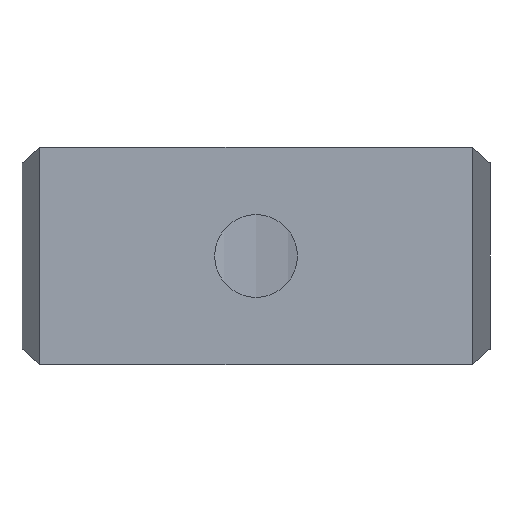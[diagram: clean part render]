
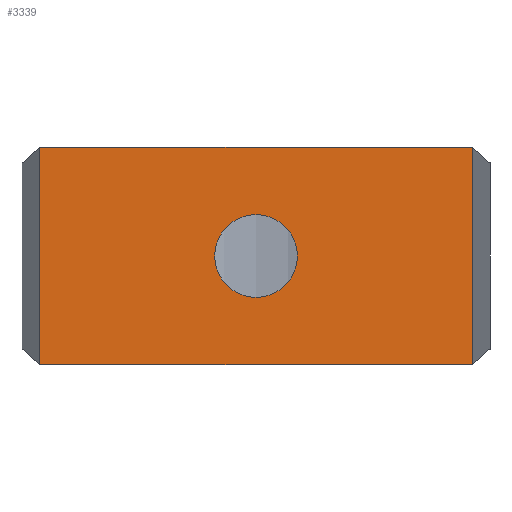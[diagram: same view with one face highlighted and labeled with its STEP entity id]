
A CAD part, front view. The second image highlights one B-rep face of the part: STEP entity #3339.
In plain terms, the highlighted planar face has unit normal (0, -1, 0).
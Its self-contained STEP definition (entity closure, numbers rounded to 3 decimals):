
#25 = CARTESIAN_POINT ( 'NONE',  ( 0., 0., -4. ) ) ;
#218 = DIRECTION ( 'NONE',  ( 0., 0., 1. ) ) ;
#337 = DIRECTION ( 'NONE',  ( 0., 0., 1. ) ) ;
#356 = CARTESIAN_POINT ( 'NONE',  ( 0., 0., 0. ) ) ;
#372 = LINE ( 'NONE', #651, #3686 ) ;
#402 = EDGE_CURVE ( 'NONE', #2640, #1232, #2025, .T. ) ;
#448 = EDGE_CURVE ( 'NONE', #3600, #1928, #3639, .T. ) ;
#498 = DIRECTION ( 'NONE',  ( -1., 0., 0. ) ) ;
#527 = LINE ( 'NONE', #2072, #2529 ) ;
#623 = EDGE_CURVE ( 'NONE', #1696, #3589, #3947, .T. ) ;
#651 = CARTESIAN_POINT ( 'NONE',  ( -20.9, 0., 10.5 ) ) ;
#805 = ORIENTED_EDGE ( 'NONE', *, *, #623, .F. ) ;
#961 = CARTESIAN_POINT ( 'NONE',  ( 0., 0., 10.5 ) ) ;
#996 = AXIS2_PLACEMENT_3D ( 'NONE', #356, #2181, #337 ) ;
#1152 = DIRECTION ( 'NONE',  ( 0., -1., 0. ) ) ;
#1161 = ORIENTED_EDGE ( 'NONE', *, *, #3928, .T. ) ;
#1232 = VERTEX_POINT ( 'NONE', #1488 ) ;
#1235 = CARTESIAN_POINT ( 'NONE',  ( 0., 0., 10.5 ) ) ;
#1435 = EDGE_CURVE ( 'NONE', #3600, #1696, #527, .T. ) ;
#1456 = DIRECTION ( 'NONE',  ( 0., 0., -1. ) ) ;
#1488 = CARTESIAN_POINT ( 'NONE',  ( 0., 0., 4. ) ) ;
#1696 = VERTEX_POINT ( 'NONE', #1906 ) ;
#1782 = CIRCLE ( 'NONE', #3508, 4. ) ;
#1906 = CARTESIAN_POINT ( 'NONE',  ( 20.9, 0., -10.5 ) ) ;
#1928 = VERTEX_POINT ( 'NONE', #2703 ) ;
#2025 = CIRCLE ( 'NONE', #996, 4. ) ;
#2072 = CARTESIAN_POINT ( 'NONE',  ( 20.9, 0., 10.5 ) ) ;
#2114 = ORIENTED_EDGE ( 'NONE', *, *, #402, .T. ) ;
#2181 = DIRECTION ( 'NONE',  ( 0., 1., 0. ) ) ;
#2255 = EDGE_CURVE ( 'NONE', #1928, #3589, #372, .T. ) ;
#2367 = ORIENTED_EDGE ( 'NONE', *, *, #2255, .T. ) ;
#2434 = FACE_OUTER_BOUND ( 'NONE', #3058, .T. ) ;
#2453 = DIRECTION ( 'NONE',  ( 1., 0., 0. ) ) ;
#2529 = VECTOR ( 'NONE', #1456, 1000. ) ;
#2537 = VECTOR ( 'NONE', #498, 1000. ) ;
#2640 = VERTEX_POINT ( 'NONE', #25 ) ;
#2675 = FACE_BOUND ( 'NONE', #2701, .T. ) ;
#2701 = EDGE_LOOP ( 'NONE', ( #1161, #2114 ) ) ;
#2703 = CARTESIAN_POINT ( 'NONE',  ( -20.9, 0., 10.5 ) ) ;
#2720 = CARTESIAN_POINT ( 'NONE',  ( 20.9, 0., 10.5 ) ) ;
#2738 = ORIENTED_EDGE ( 'NONE', *, *, #1435, .F. ) ;
#2739 = DIRECTION ( 'NONE',  ( -1., 0., 0. ) ) ;
#2743 = CARTESIAN_POINT ( 'NONE',  ( -20.9, 0., -10.5 ) ) ;
#2972 = VECTOR ( 'NONE', #2739, 1000. ) ;
#3058 = EDGE_LOOP ( 'NONE', ( #805, #2738, #3643, #2367 ) ) ;
#3152 = CARTESIAN_POINT ( 'NONE',  ( 0., 0., 0. ) ) ;
#3175 = DIRECTION ( 'NONE',  ( 0., 1., 0. ) ) ;
#3241 = AXIS2_PLACEMENT_3D ( 'NONE', #1235, #1152, #2453 ) ;
#3339 = ADVANCED_FACE ( 'NONE', ( #2675, #2434 ), #3650, .T. ) ;
#3392 = DIRECTION ( 'NONE',  ( 0., 0., -1. ) ) ;
#3508 = AXIS2_PLACEMENT_3D ( 'NONE', #3152, #3175, #218 ) ;
#3589 = VERTEX_POINT ( 'NONE', #2743 ) ;
#3600 = VERTEX_POINT ( 'NONE', #2720 ) ;
#3639 = LINE ( 'NONE', #961, #2972 ) ;
#3643 = ORIENTED_EDGE ( 'NONE', *, *, #448, .T. ) ;
#3650 = PLANE ( 'NONE',  #3241 ) ;
#3686 = VECTOR ( 'NONE', #3392, 1000. ) ;
#3819 = CARTESIAN_POINT ( 'NONE',  ( 0., 0., -10.5 ) ) ;
#3928 = EDGE_CURVE ( 'NONE', #1232, #2640, #1782, .T. ) ;
#3947 = LINE ( 'NONE', #3819, #2537 ) ;
